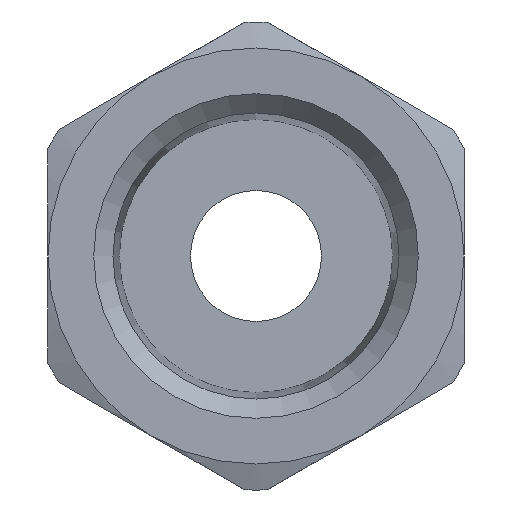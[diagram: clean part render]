
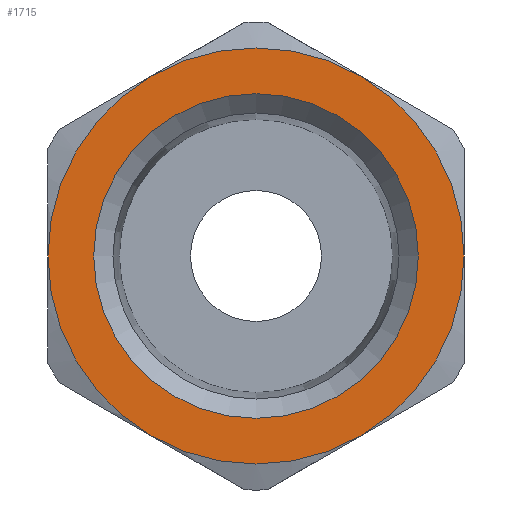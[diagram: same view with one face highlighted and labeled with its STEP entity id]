
A CAD part, front view. The second image highlights one B-rep face of the part: STEP entity #1715.
In plain terms, the highlighted planar face has unit normal (0, -1, 0).
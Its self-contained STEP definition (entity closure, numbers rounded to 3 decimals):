
#1050=CARTESIAN_POINT('',(-5.556,-27.0,9.624));
#1051=VERTEX_POINT('',#1050);
#1074=CARTESIAN_POINT('',(-11.112,-27.0,0.));
#1075=VERTEX_POINT('',#1074);
#1089=CARTESIAN_POINT('',(0.0,-27.0,0.0));
#1090=DIRECTION('',(0.0,-1.0,0.0));
#1091=DIRECTION('',(0.0,0.0,1.0));
#1092=AXIS2_PLACEMENT_3D('',#1089,#1090,#1091);
#1093=CIRCLE('',#1092,11.113);
#1094=EDGE_CURVE('',#1051,#1075,#1093,.T.);
#1104=CARTESIAN_POINT('',(-5.556,-27.0,-9.624));
#1105=VERTEX_POINT('',#1104);
#1121=CARTESIAN_POINT('',(0.0,-27.0,0.0));
#1122=DIRECTION('',(0.0,-1.0,0.0));
#1123=DIRECTION('',(0.0,0.0,1.0));
#1124=AXIS2_PLACEMENT_3D('',#1121,#1122,#1123);
#1125=CIRCLE('',#1124,11.113);
#1126=EDGE_CURVE('',#1075,#1105,#1125,.T.);
#1158=CARTESIAN_POINT('',(5.556,-27.0,-9.624));
#1159=VERTEX_POINT('',#1158);
#1175=CARTESIAN_POINT('',(0.0,-27.0,0.0));
#1176=DIRECTION('',(0.0,-1.0,0.0));
#1177=DIRECTION('',(0.0,0.0,1.0));
#1178=AXIS2_PLACEMENT_3D('',#1175,#1176,#1177);
#1179=CIRCLE('',#1178,11.113);
#1180=EDGE_CURVE('',#1105,#1159,#1179,.T.);
#1214=CARTESIAN_POINT('',(5.556,-27.0,9.624));
#1215=VERTEX_POINT('',#1214);
#1251=CARTESIAN_POINT('',(0.0,-27.0,0.0));
#1252=DIRECTION('',(0.0,-1.0,0.0));
#1253=DIRECTION('',(0.0,0.0,1.0));
#1254=AXIS2_PLACEMENT_3D('',#1251,#1252,#1253);
#1255=CIRCLE('',#1254,11.113);
#1256=EDGE_CURVE('',#1215,#1051,#1255,.T.);
#1266=CARTESIAN_POINT('',(11.113,-27.0,0.));
#1267=VERTEX_POINT('',#1266);
#1283=CARTESIAN_POINT('',(0.0,-27.0,0.0));
#1284=DIRECTION('',(0.0,-1.0,0.0));
#1285=DIRECTION('',(0.0,0.0,1.0));
#1286=AXIS2_PLACEMENT_3D('',#1283,#1284,#1285);
#1287=CIRCLE('',#1286,11.113);
#1288=EDGE_CURVE('',#1159,#1267,#1287,.T.);
#1357=CARTESIAN_POINT('',(0.0,-27.0,0.0));
#1358=DIRECTION('',(0.0,-1.0,0.0));
#1359=DIRECTION('',(0.0,0.0,1.0));
#1360=AXIS2_PLACEMENT_3D('',#1357,#1358,#1359);
#1361=CIRCLE('',#1360,11.113);
#1362=EDGE_CURVE('',#1267,#1215,#1361,.T.);
#1691=CARTESIAN_POINT('',(1.75,-27.0,0.0));
#1692=DIRECTION('',(0.0,-1.0,0.0));
#1693=DIRECTION('',(0.0,0.0,-1.0));
#1694=AXIS2_PLACEMENT_3D('',#1691,#1692,#1693);
#1695=PLANE('',#1694);
#1696=ORIENTED_EDGE('',*,*,#1126,.T.);
#1697=ORIENTED_EDGE('',*,*,#1180,.T.);
#1698=ORIENTED_EDGE('',*,*,#1288,.T.);
#1699=ORIENTED_EDGE('',*,*,#1362,.T.);
#1700=ORIENTED_EDGE('',*,*,#1256,.T.);
#1701=ORIENTED_EDGE('',*,*,#1094,.T.);
#1702=EDGE_LOOP('',(#1696,#1697,#1698,#1699,#1700,#1701));
#1703=FACE_OUTER_BOUND('',#1702,.T.);
#1704=CARTESIAN_POINT('',(0.,-27.0,8.668));
#1705=VERTEX_POINT('',#1704);
#1706=CARTESIAN_POINT('',(0.,-27.0,0.));
#1707=DIRECTION('',(0.0,-1.0,0.0));
#1708=DIRECTION('',(0.0,0.0,-1.0));
#1709=AXIS2_PLACEMENT_3D('',#1706,#1707,#1708);
#1710=CIRCLE('',#1709,8.668);
#1711=EDGE_CURVE('',#1705,#1705,#1710,.T.);
#1712=ORIENTED_EDGE('',*,*,#1711,.F.);
#1713=EDGE_LOOP('',(#1712));
#1714=FACE_BOUND('',#1713,.T.);
#1715=ADVANCED_FACE('',(#1703,#1714),#1695,.T.);
